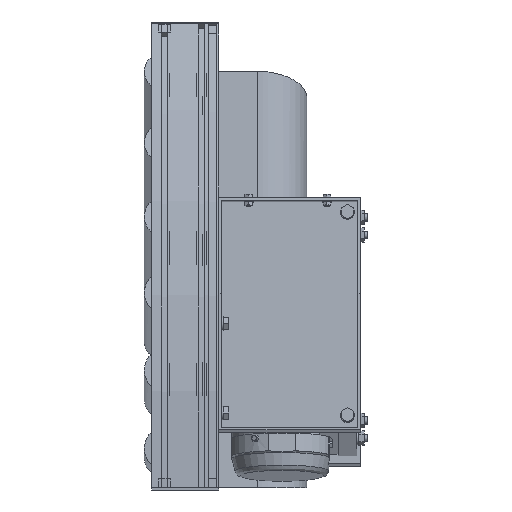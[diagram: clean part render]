
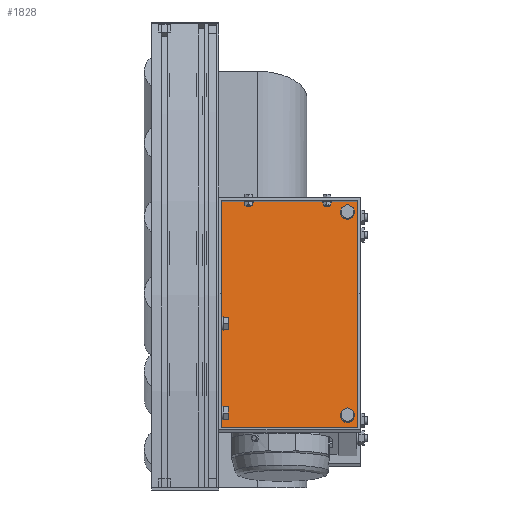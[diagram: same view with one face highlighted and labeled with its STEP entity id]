
A CAD part, left-side view. The second image highlights one B-rep face of the part: STEP entity #1828.
In plain terms, the highlighted planar face has unit normal (-0.991, 0, 0.131).
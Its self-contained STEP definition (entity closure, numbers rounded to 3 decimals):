
#1828=ADVANCED_FACE('',(#7407,#7408,#7409),#7406,.T.);
#7406=PLANE('',#16564);
#7407=FACE_OUTER_BOUND('',#16565,.T.);
#7408=FACE_BOUND('',#16566,.T.);
#7409=FACE_BOUND('',#16567,.T.);
#16561=CARTESIAN_POINT('',(-160.276,-296.8,67.731));
#16562=DIRECTION('',(-0.991,0.,0.131));
#16563=DIRECTION('',(0.131,0.,0.991));
#16564=AXIS2_PLACEMENT_3D('',#16561,#16562,#16563);
#16565=EDGE_LOOP('',(#22296,#22297,#22298,#22299));
#16566=EDGE_LOOP('',(#22300,#22301));
#16567=EDGE_LOOP('',(#22302,#22303));
#22296=ORIENTED_EDGE('',*,*,#26418,.F.);
#22297=ORIENTED_EDGE('',*,*,#26419,.F.);
#22298=ORIENTED_EDGE('',*,*,#26420,.F.);
#22299=ORIENTED_EDGE('',*,*,#26421,.F.);
#22300=ORIENTED_EDGE('',*,*,#26422,.T.);
#22301=ORIENTED_EDGE('',*,*,#26423,.T.);
#22302=ORIENTED_EDGE('',*,*,#26424,.T.);
#22303=ORIENTED_EDGE('',*,*,#26425,.T.);
#26418=EDGE_CURVE('',#35917,#35918,#35919,.T.);
#26419=EDGE_CURVE('',#35925,#35917,#35926,.T.);
#26420=EDGE_CURVE('',#35932,#35925,#35933,.T.);
#26421=EDGE_CURVE('',#35918,#35932,#35939,.T.);
#26422=EDGE_CURVE('',#35945,#35946,#35947,.T.);
#26423=EDGE_CURVE('',#35946,#35945,#35953,.T.);
#26424=EDGE_CURVE('',#35959,#35960,#35961,.T.);
#26425=EDGE_CURVE('',#35960,#35959,#35967,.T.);
#35917=VERTEX_POINT('',#50700);
#35918=VERTEX_POINT('',#50701);
#35919=LINE('',#50702,#50703);
#35925=VERTEX_POINT('',#50705);
#35926=LINE('',#50706,#50707);
#35932=VERTEX_POINT('',#50709);
#35933=LINE('',#50710,#50711);
#35939=LINE('',#50713,#50714);
#35945=VERTEX_POINT('',#50716);
#35946=VERTEX_POINT('',#50717);
#35947=CIRCLE('',#50721,5.5);
#35953=CIRCLE('',#50725,5.5);
#35959=VERTEX_POINT('',#50726);
#35960=VERTEX_POINT('',#50727);
#35961=CIRCLE('',#50731,5.5);
#35967=CIRCLE('',#50735,5.5);
#50700=CARTESIAN_POINT('',(-118.691,-286.8,383.606));
#50701=CARTESIAN_POINT('',(-158.971,-286.8,77.646));
#50702=CARTESIAN_POINT('',(-118.691,-286.8,383.606));
#50703=VECTOR('',#50704,308.6);
#50704=DIRECTION('',(-0.131,0.,-0.991));
#50705=CARTESIAN_POINT('',(-118.691,-103.2,383.606));
#50706=CARTESIAN_POINT('',(-118.691,-103.2,383.606));
#50707=VECTOR('',#50708,183.6);
#50708=DIRECTION('',(0.,-1.,0.));
#50709=CARTESIAN_POINT('',(-158.971,-103.2,77.646));
#50710=CARTESIAN_POINT('',(-158.971,-103.2,77.646));
#50711=VECTOR('',#50712,308.6);
#50712=DIRECTION('',(0.131,0.,0.991));
#50713=CARTESIAN_POINT('',(-158.971,-286.8,77.646));
#50714=VECTOR('',#50715,183.6);
#50715=DIRECTION('',(0.,1.,0.));
#50716=CARTESIAN_POINT('',(-157.17,-272.5,91.328));
#50717=CARTESIAN_POINT('',(-155.734,-272.5,102.233));
#50718=CARTESIAN_POINT('',(-156.452,-272.5,96.781));
#50719=DIRECTION('',(0.991,0.,-0.131));
#50720=DIRECTION('',(-0.131,0.,-0.991));
#50721=AXIS2_PLACEMENT_3D('',#50718,#50719,#50720);
#50722=CARTESIAN_POINT('',(-156.452,-272.5,96.781));
#50723=DIRECTION('',(0.991,0.,-0.131));
#50724=DIRECTION('',(-0.131,0.,-0.991));
#50725=AXIS2_PLACEMENT_3D('',#50722,#50723,#50724);
#50726=CARTESIAN_POINT('',(-121.275,-272.5,363.975));
#50727=CARTESIAN_POINT('',(-119.839,-272.5,374.881));
#50728=CARTESIAN_POINT('',(-120.557,-272.5,369.428));
#50729=DIRECTION('',(0.991,0.,-0.131));
#50730=DIRECTION('',(-0.131,0.,-0.991));
#50731=AXIS2_PLACEMENT_3D('',#50728,#50729,#50730);
#50732=CARTESIAN_POINT('',(-120.557,-272.5,369.428));
#50733=DIRECTION('',(0.991,0.,-0.131));
#50734=DIRECTION('',(-0.131,0.,-0.991));
#50735=AXIS2_PLACEMENT_3D('',#50732,#50733,#50734);
